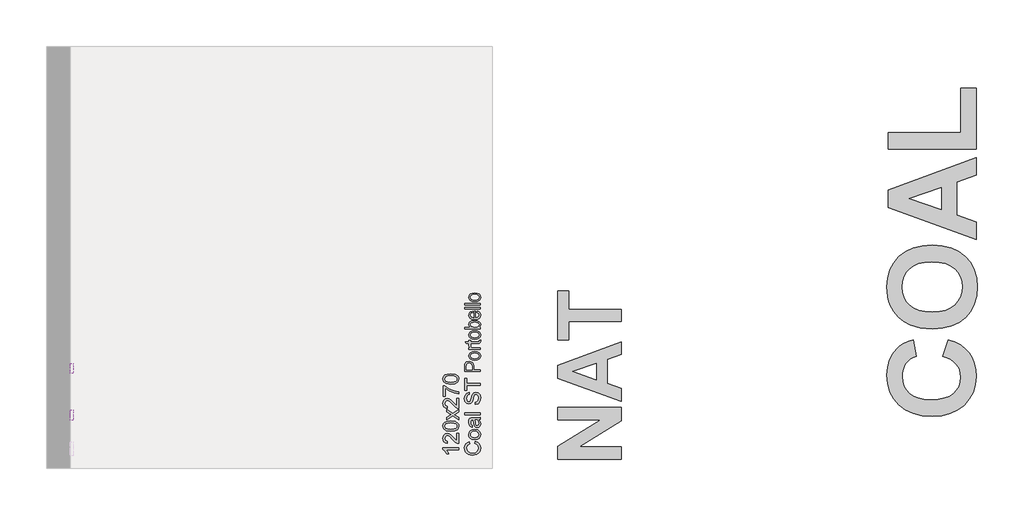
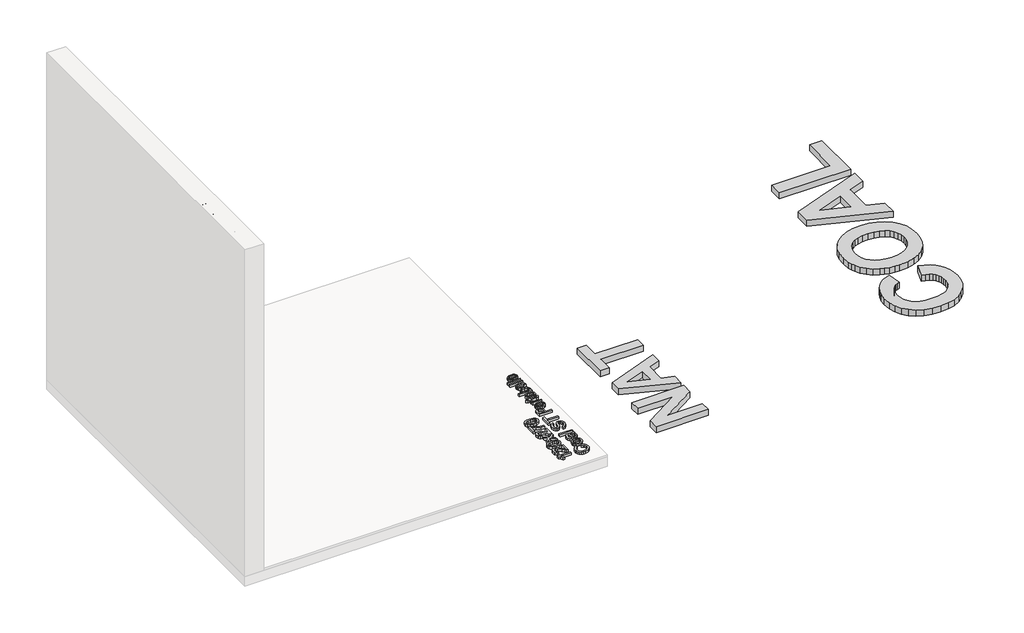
# One storey, part 18 of 19: 7 proxies.
"""IFC4 building model written with IfcOpenShell, lengths in millimetres."""

import ifcopenshell
import ifcopenshell.guid

model = None  # the IFC model being written
_history = None  # IfcOwnerHistory: only IFC2X3 demands one
_inside = {}  # id of a spatial element -> (the spatial element, [elements in it])
_under = {}  # id of a project, library or spatial element -> (it, [spatial elements below it])
_declared = {}  # id of a project -> (the project, [libraries it declares])
_typed = {}  # id of a type object -> (the type object, [elements of that type])
_made_of = {}  # id of a material, layer set ... -> (it, [elements and type objects made of it])


def new_model(schema):
    """Start an empty IFC model of exactly this schema.

    Asked for "IFC4X3", IfcOpenShell would pick the latest addendum, in which some entities
    have other attributes; the version numbers below select the first issue.
    IFC2X3 requires an IfcOwnerHistory on every rooted entity: one is made here for all.
    """
    global model, _history
    if schema == "IFC4X3":
        model = ifcopenshell.file(schema_version=(4, 3, 0, 0))
    else:
        model = ifcopenshell.file(schema=schema)
    _inside.clear()
    _under.clear()
    _declared.clear()
    _typed.clear()
    _made_of.clear()
    _history = None
    if model.schema == "IFC2X3":
        org = make("IfcOrganization", Name="unknown")
        user = make(
            "IfcPersonAndOrganization",
            ThePerson=make("IfcPerson", FamilyName="unknown"),
            TheOrganization=org,
        )
        app = make(
            "IfcApplication",
            ApplicationDeveloper=org,
            Version="unknown",
            ApplicationFullName="unknown",
            ApplicationIdentifier="unknown",
        )
        _history = make(
            "IfcOwnerHistory",
            OwningUser=user,
            OwningApplication=app,
            ChangeAction="ADDED",
            CreationDate=0,
        )
    return model


def make(cls, **values):
    """One entity of the class cls with the attributes given. An attribute that is None is left unset."""
    return model.create_entity(
        cls, **{name: value for name, value in values.items() if value is not None}
    )


def rooted(cls, **values):
    """An entity with a GlobalId (a new one), such as an element, a storey or a relation."""
    return make(cls, GlobalId=ifcopenshell.guid.new(), OwnerHistory=_history, **values)


def si_unit(unit_type, name, prefix=None):
    """IfcSIUnit, for example si_unit("LENGTHUNIT", "METRE", prefix="MILLI")."""
    return make("IfcSIUnit", UnitType=unit_type, Prefix=prefix, Name=name)


def assignment(units):
    """IfcUnitAssignment: the units of a project."""
    return None if units is None else make("IfcUnitAssignment", Units=units)


def point(xyz):
    """IfcCartesianPoint."""
    return None if xyz is None else make("IfcCartesianPoint", Coordinates=xyz)


def direction(xyz):
    """IfcDirection."""
    return None if xyz is None else make("IfcDirection", DirectionRatios=xyz)


def frame(location, z_axis=None, x_axis=None):
    """IfcAxis2Placement3D, a coordinate frame: its origin and axes. An axis left out is left unset."""
    return make(
        "IfcAxis2Placement3D",
        Location=point(location),
        Axis=direction(z_axis),
        RefDirection=direction(x_axis),
    )


def origin():
    """The frame at (0, 0, 0) with its axes left unset."""
    return frame((0.0, 0.0, 0.0))


def origin_with_axes():
    """The frame at (0, 0, 0) with the z axis (0, 0, 1) and the x axis (1, 0, 0) written out."""
    return frame((0.0, 0.0, 0.0), z_axis=(0.0, 0.0, 1.0), x_axis=(1.0, 0.0, 0.0))


def place(relative_to, where):
    """IfcLocalPlacement: puts the frame where relative to a parent placement (None: the world)."""
    return make(
        "IfcLocalPlacement", PlacementRelTo=relative_to, RelativePlacement=where
    )


def context(
    kind, dimensions, precision=None, world=None, true_north=None, identifier=None
):
    """IfcGeometricRepresentationContext, for example the 3D "Model" context."""
    return make(
        "IfcGeometricRepresentationContext",
        ContextIdentifier=identifier,
        ContextType=kind,
        CoordinateSpaceDimension=dimensions,
        Precision=precision,
        WorldCoordinateSystem=world,
        TrueNorth=true_north,
    )


def project(units=None, contexts=None):
    """IfcProject with its units and contexts."""
    return rooted(
        "IfcProject",
        Name="project",
        RepresentationContexts=contexts,
        UnitsInContext=assignment(units),
    )


def spatial(cls, under=None, at=None, **own):
    """A site, building, storey or space (cls), placed at a placement, below another one or the project."""
    s = rooted(cls, ObjectPlacement=at, **own)
    if under is not None:
        _under.setdefault(under.id(), (under, []))[1].append(s)
    return s


def polyline(points):
    """IfcPolyline through the points."""
    return make("IfcPolyline", Points=[point(p) for p in points])


def outline(outer, holes=None, kind="AREA"):
    """IfcArbitraryClosedProfileDef: a profile drawn as a closed curve; with holes, ...WithVoids."""
    if holes is None:
        return make("IfcArbitraryClosedProfileDef", ProfileType=kind, OuterCurve=outer)
    return make(
        "IfcArbitraryProfileDefWithVoids",
        ProfileType=kind,
        OuterCurve=outer,
        InnerCurves=holes,
    )


def extrude(swept, where, along, depth):
    """IfcExtrudedAreaSolid: the profile swept, set in the frame where, extruded along a direction by depth."""
    return make(
        "IfcExtrudedAreaSolid",
        SweptArea=swept,
        Position=where,
        ExtrudedDirection=direction(along),
        Depth=depth,
    )


def shape(context_of_items, identifier, shape_type, items):
    """IfcShapeRepresentation: the items that make up one representation, for example the "Body"."""
    return make(
        "IfcShapeRepresentation",
        ContextOfItems=context_of_items,
        RepresentationIdentifier=identifier,
        RepresentationType=shape_type,
        Items=items,
    )


def made_of(thing, what):
    """Note that an element or type object is made of a material, layer set ...; save() writes the relation."""
    if what is not None:
        _made_of.setdefault(what.id(), (what, []))[1].append(thing)
    return thing


def element(
    cls,
    number,
    at=None,
    inside=None,
    cuts=None,
    type_object=None,
    material=None,
    context=None,
    identifier="Body",
    shape_type=None,
    held_by="IfcProductDefinitionShape",
    body=None,
    shapes=None,
    **own,
):
    """One element of the class cls, such as IfcWall. Its Tag is "e" and its number.

    at: its placement. inside: the storey or other place that contains it. cuts: it is an
    opening in that element (IfcRelVoidsElement). A single representation is given by context,
    identifier, shape_type and body (its items); several are given by shapes. held_by: the class
    of the entity that holds the representations. save() writes the other relations.
    """
    e = rooted(cls, Tag="e%d" % number, ObjectPlacement=at, **own)
    if body is not None:
        shapes = [shape(context, identifier, shape_type, body)]
    if shapes is not None:
        e.Representation = make(held_by, Representations=shapes)
    if inside is not None:
        _inside.setdefault(inside.id(), (inside, []))[1].append(e)
    if cuts is not None:
        rooted(
            "IfcRelVoidsElement", RelatingBuildingElement=cuts, RelatedOpeningElement=e
        )
    if type_object is not None:
        _typed.setdefault(type_object.id(), (type_object, []))[1].append(e)
    return made_of(e, material)


def aggregate(whole, parts):
    """IfcRelAggregates: a whole, such as a stair, and the parts it consists of."""
    return rooted("IfcRelAggregates", RelatingObject=whole, RelatedObjects=parts)


def save(model, path):
    """Write the relations noted so far, then the file.

    IfcRelAggregates (storeys below a building ...), IfcRelContainedInSpatialStructure (elements
    in a storey), IfcRelDefinesByType, IfcRelAssociatesMaterial and IfcRelDeclares: one each for
    every whole, place, type object, material and project.
    """
    for whole, parts in _under.values():
        aggregate(whole, parts)
    for where, things in _inside.values():
        rooted(
            "IfcRelContainedInSpatialStructure",
            RelatedElements=things,
            RelatingStructure=where,
        )
    for kind, things in _typed.values():
        rooted("IfcRelDefinesByType", RelatedObjects=things, RelatingType=kind)
    for what, things in _made_of.values():
        rooted("IfcRelAssociatesMaterial", RelatedObjects=things, RelatingMaterial=what)
    for by, libraries in _declared.values():
        rooted("IfcRelDeclares", RelatingContext=by, RelatedDefinitions=libraries)
    model.write(path)


model = new_model("IFC4")

# Units and contexts
model_context = context("Model", 3, world=origin())
ifc_project = project(units=[si_unit("LENGTHUNIT", "METRE", prefix="MILLI")], contexts=[model_context])

# Site, building, storey
site = spatial("IfcSite", under=ifc_project)
building = spatial("IfcBuilding", under=site)
storey = spatial("IfcBuildingStorey", under=building, Name="PORTOBELLO - SHOWROOM", Elevation=0.0)

# Proxies
placement = place(None, origin())
element("IfcBuildingElementProxy", 1, Name="10mm Arial", ObjectType="10mm Arial", at=placement, inside=storey, context=model_context, shape_type="SweptSolid", body=[
    extrude(outline(polyline([(11494.5159023, 26160.9791147), (11497.7532639, 26173.5361535), (11512.3857702, 26167.7420121), (11523.0758079, 26158.6491954), (11529.6149103, 26146.7052933), (11531.7946112, 26132.3578955), (11530.1452735, 26117.7928342), (11525.1972607, 26106.2260111), (11517.1222509, 26097.360055), (11506.0919224, 26090.8975947), (11479.2365368, 26085.6368821), (11464.588702, 26087.1237385), (11451.9396927, 26091.5843077), (11441.6911135, 26098.7855978), (11434.2445688, 26108.4946168), (11429.7104232, 26120.0093232), (11428.1990413, 26132.6276757), (11430.1549473, 26146.3956593), (11436.0226651, 26157.7785414), (11445.4404442, 26166.4207026), (11458.0465339, 26171.9665237), (11461.0386408, 26159.4094849), (11445.5998597, 26149.108789), (11440.7560801, 26132.1371663), (11446.1271572, 26112.4922678), (11460.5481314, 26101.3944943), (11479.2120113, 26098.1939209), (11500.8434726, 26101.9831055), (11514.6635729, 26113.7798548), (11519.2375724, 26131.1070967), (11517.6802053, 26141.5886679), (11513.0081039, 26150.3227996), (11505.2703193, 26156.9170844), (11494.5159023, 26160.9791147)])), origin_with_axes(), (0.0, 0.0, 1.0), 20.0),
    extrude(outline(polyline([(11493.3386799, 26186.0931923), (11475.5515855, 26188.8093877), (11463.049729, 26196.9579739), (11456.9244938, 26207.0256778), (11454.8827487, 26219.0799445), (11457.3690179, 26232.2715797), (11464.8278253, 26242.8083332), (11476.6705599, 26249.7153177), (11492.3086103, 26252.0176458), (11514.6513102, 26247.9464184), (11527.2941881, 26236.0883554), (11531.7946112, 26219.0799445), (11529.3175391, 26205.7288938), (11521.8863228, 26195.204403), (11509.7952678, 26188.370995), (11493.3386799, 26186.0931923)]), holes=[polyline([(11493.3141545, 26198.6502311), (11504.6786424, 26200.1033649), (11512.775112, 26204.4627666), (11517.6219573, 26211.0233288), (11519.2375724, 26219.0799445), (11517.6127602, 26227.099772), (11512.7383238, 26233.6480715), (11504.5345553, 26238.0074732), (11492.921747, 26239.4606071), (11481.8883528, 26237.9982761), (11473.9022479, 26233.6112833), (11469.0554026, 26227.0537868), (11467.4397875, 26219.0799445), (11469.0492712, 26211.0233288), (11473.8777224, 26204.4627666), (11481.9557979, 26200.1033649), (11493.3141545, 26198.6502311)])]), origin_with_axes(), (0.0, 0.0, 1.0), 20.0),
    extrude(outline(polyline([(11520.8072022, 26313.2332098), (11529.3175391, 26301.0563158), (11531.7946112, 26287.6040975), (11530.3046891, 26277.1102636), (11525.8349228, 26269.3694133), (11519.0475, 26264.5961444), (11510.6046082, 26263.0050547), (11500.6717944, 26265.4085504), (11493.4613073, 26271.723858), (11489.3410289, 26280.5162377), (11487.452568, 26291.3810193), (11483.1360859, 26313.1596334), (11480.3401828, 26313.2332098), (11471.0695565, 26309.7751191), (11467.4397875, 26295.8937051), (11469.8555459, 26283.1895135), (11478.4271964, 26277.1317234), (11476.8575665, 26264.5746846), (11464.5948334, 26270.0070754), (11457.4088717, 26280.9454334), (11454.8827487, 26297.5123859), (11457.1145661, 26312.7304378), (11462.7186352, 26321.3266137), (11471.2412348, 26325.1771119), (11482.2286437, 26325.7902486), (11497.8513657, 26325.7902486), (11519.6667681, 26326.4279107), (11530.2249813, 26328.9295083), (11530.2249813, 26316.3724695), (11520.8072022, 26313.2332098)]), holes=[polyline([(11495.6931247, 26313.2332098), (11499.5436229, 26292.9751746), (11501.5792366, 26282.1717067), (11504.8901746, 26277.2788762), (11509.7216914, 26275.5620935), (11516.5152456, 26279.3022271), (11519.2375724, 26290.2773733), (11516.2332028, 26302.9815649), (11508.961402, 26311.1730706), (11499.2493173, 26313.1596334), (11495.6931247, 26313.2332098)])]), origin_with_axes(), (0.0, 0.0, 1.0), 20.0),
    extrude(outline(polyline([(11530.2249813, 26343.0561769), (11429.7686712, 26343.0561769), (11429.7686712, 26355.6132157), (11530.2249813, 26355.6132157), (11530.2249813, 26343.0561769)])), origin_with_axes(), (0.0, 0.0, 1.0), 20.0),
    extrude(outline(polyline([(11495.6931247, 26410.5502603), (11495.6931247, 26423.107299), (11508.2624262, 26427.154001), (11516.2086773, 26437.0377639), (11519.2375724, 26452.0964003), (11516.9444413, 26465.2175248), (11510.6413964, 26473.6910734), (11502.2168987, 26476.4747138), (11494.3810122, 26474.3900492), (11488.6788413, 26465.8551869), (11483.8841127, 26447.5714517), (11477.6914324, 26427.889765), (11468.3472297, 26417.2089244), (11455.8637674, 26413.68952), (11441.6512596, 26418.0427902), (11431.6203439, 26430.7592445), (11428.1990413, 26449.3740735), (11431.7797594, 26469.2397012), (11442.3011845, 26482.4834531), (11458.0220084, 26487.4621227), (11458.0220084, 26474.905084), (11450.5294784, 26472.5996901), (11445.1216131, 26467.7926987), (11440.7560801, 26449.8645828), (11445.0725622, 26431.887416), (11455.4958854, 26426.2465587), (11464.2024259, 26430.2442097), (11471.2167093, 26450.7474996), (11477.5197541, 26472.9675721), (11487.6978227, 26485.1199407), (11501.8980677, 26489.0317526), (11516.9199158, 26484.5313295), (11527.8827993, 26471.5818833), (11531.7946112, 26452.5869096), (11527.5762309, 26430.1583706), (11514.8720394, 26415.9703883), (11495.6931247, 26410.5502603)])), origin_with_axes(), (0.0, 0.0, 1.0), 20.0),
    extrude(outline(polyline([(11530.2249813, 26532.9813883), (11442.3257099, 26532.9813883), (11442.3257099, 26500.0191615), (11429.7686712, 26500.0191615), (11429.7686712, 26578.5006538), (11442.3257099, 26578.5006538), (11442.3257099, 26545.538427), (11530.2249813, 26545.538427), (11530.2249813, 26532.9813883)])), origin_with_axes(), (0.0, 0.0, 1.0), 20.0),
])
element("IfcBuildingElementProxy", 2, Name="10mm Arial", ObjectType="10mm Arial", at=placement, inside=storey, context=model_context, shape_type="SweptSolid", body=[
    extrude(outline(polyline([(26129.3687754, 2381.1895903), (26116.8117367, 2381.1895903), (26116.8117367, 2459.4748789), (26104.9168855, 2451.0013303), (26091.6976591, 2444.6614972), (26091.6976591, 2456.531823), (26110.1040216, 2468.2795213), (26121.2753715, 2481.6459005), (26129.3687754, 2481.6459005), (26129.3687754, 2381.1895903)])), frame((8905.7966975, 0.0, 0.0), z_axis=(1.0, 0.0, 0.0), x_axis=(0.0, 1.0, 0.0)), (0.0, 0.0, 1.0), 20.0),
    extrude(outline(polyline([(26223.5465662, 2393.7466291), (26223.5465662, 2381.1895903), (26157.6221127, 2381.1895903), (26158.9710133, 2389.84708), (26166.6106961, 2403.1766709), (26182.3437827, 2417.7325352), (26204.0120323, 2438.652758), (26209.4198976, 2452.8775285), (26204.3063378, 2464.3922349), (26190.9522214, 2469.0888617), (26177.0340193, 2464.5025995), (26171.7487813, 2451.8229334), (26159.1917425, 2453.3925633), (26162.235966, 2465.5388005), (26168.817988, 2474.4108879), (26178.5944521, 2479.8371473), (26191.2220016, 2481.6459005), (26203.9415215, 2479.6348123), (26213.6995915, 2473.6015475), (26219.9076001, 2464.5884386), (26221.9769364, 2453.6378179), (26219.7451189, 2441.730704), (26212.3261653, 2429.4189199), (26194.3367358, 2412.2143053), (26179.8912361, 2400.1355131), (26174.2258534, 2393.7466291), (26223.5465662, 2393.7466291)])), frame((8905.7966975, 0.0, 0.0), z_axis=(1.0, 0.0, 0.0), x_axis=(0.0, 1.0, 0.0)), (0.0, 0.0, 1.0), 20.0),
    extrude(outline(polyline([(26236.103605, 2430.608405), (26239.7946876, 2459.5116671), (26250.7575711, 2476.1767215), (26269.0658317, 2481.6459005), (26283.7320606, 2478.4085389), (26293.8610782, 2469.076599), (26299.7471901, 2454.2141664), (26302.0280585, 2430.608405), (26298.373764, 2401.8277703), (26287.4476688, 2385.1259277), (26279.2163091, 2380.9964523), (26269.0658317, 2379.6199605), (26256.0182836, 2382.0111935), (26246.1099952, 2389.1848924), (26238.6052025, 2406.1749092), (26236.103605, 2430.608405)]), holes=[polyline([(26248.6606437, 2430.6329305), (26250.1321717, 2410.880733), (26254.5467557, 2399.4488), (26261.1195806, 2393.9949495), (26269.0658317, 2392.1769993), (26277.0120828, 2394.0010808), (26283.5849078, 2399.4733255), (26287.9994918, 2410.9113899), (26289.4710197, 2430.6329305), (26288.0485427, 2449.9406039), (26283.7811115, 2461.4614417), (26277.2205493, 2467.1820067), (26268.9186789, 2469.0888617), (26261.058267, 2467.4088673), (26254.7429594, 2462.3688839), (26250.1812226, 2450.1306762), (26248.6606437, 2430.6329305)])]), frame((8905.7966975, 0.0, 0.0), z_axis=(1.0, 0.0, 0.0), x_axis=(0.0, 1.0, 0.0)), (0.0, 0.0, 1.0), 20.0),
    extrude(outline(polyline([(26308.3065779, 2381.1895903), (26335.1374381, 2418.2966209), (26309.8762077, 2454.9621931), (26324.9348441, 2454.9621931), (26337.1240008, 2437.2793319), (26342.8384345, 2428.9651988), (26347.7925787, 2435.7832784), (26361.6739927, 2454.9621931), (26376.7816799, 2454.9621931), (26350.2451253, 2418.2720955), (26375.8006613, 2381.1895903), (26360.7174995, 2381.1895903), (26345.3155066, 2403.5077647), (26342.5196034, 2407.6035176), (26323.4142652, 2381.1895903), (26308.3065779, 2381.1895903)])), frame((8905.7966975, 0.0, 0.0), z_axis=(1.0, 0.0, 0.0), x_axis=(0.0, 1.0, 0.0)), (0.0, 0.0, 1.0), 20.0),
    extrude(outline(polyline([(26448.0036342, 2393.7466291), (26448.0036342, 2381.1895903), (26382.0791807, 2381.1895903), (26383.4280813, 2389.84708), (26391.0677641, 2403.1766709), (26406.8008507, 2417.7325352), (26428.4691002, 2438.652758), (26433.8769656, 2452.8775285), (26428.7634058, 2464.3922349), (26415.4092894, 2469.0888617), (26401.4910873, 2464.5025995), (26396.2058493, 2451.8229334), (26383.6488105, 2453.3925633), (26386.693034, 2465.5388005), (26393.275056, 2474.4108879), (26403.0515201, 2479.8371473), (26415.6790695, 2481.6459005), (26428.3985895, 2479.6348123), (26438.1566594, 2473.6015475), (26444.3646681, 2464.5884386), (26446.4340043, 2453.6378179), (26444.2021869, 2441.730704), (26436.7832333, 2429.4189199), (26418.7938038, 2412.2143053), (26404.3483041, 2400.1355131), (26398.6829214, 2393.7466291), (26448.0036342, 2393.7466291)])), frame((8905.7966975, 0.0, 0.0), z_axis=(1.0, 0.0, 0.0), x_axis=(0.0, 1.0, 0.0)), (0.0, 0.0, 1.0), 20.0),
    extrude(outline(polyline([(26460.560673, 2467.5192319), (26460.560673, 2480.0762706), (26526.4851265, 2480.0762706), (26526.4851265, 2469.9227276), (26507.7844584, 2442.9079264), (26493.4738488, 2408.4864344), (26488.8140102, 2381.1895903), (26476.2569714, 2381.1895903), (26481.2479038, 2409.516504), (26494.9453768, 2441.5345003), (26513.9280877, 2467.5192319), (26460.560673, 2467.5192319)])), frame((8905.7966975, 0.0, 0.0), z_axis=(1.0, 0.0, 0.0), x_axis=(0.0, 1.0, 0.0)), (0.0, 0.0, 1.0), 20.0),
    extrude(outline(polyline([(26537.4725354, 2430.608405), (26541.1636181, 2459.5116671), (26552.1265016, 2476.1767215), (26570.4347622, 2481.6459005), (26585.1009911, 2478.4085389), (26595.2300087, 2469.076599), (26601.1161206, 2454.2141664), (26603.3969889, 2430.608405), (26599.7426945, 2401.8277703), (26588.8165992, 2385.1259277), (26580.5852396, 2380.9964523), (26570.4347622, 2379.6199605), (26557.3872141, 2382.0111935), (26547.4789257, 2389.1848924), (26539.974133, 2406.1749092), (26537.4725354, 2430.608405)]), holes=[polyline([(26550.0295742, 2430.6329305), (26551.5011022, 2410.880733), (26555.9156861, 2399.4488), (26562.4885111, 2393.9949495), (26570.4347622, 2392.1769993), (26578.3810133, 2394.0010808), (26584.9538383, 2399.4733255), (26589.3684222, 2410.9113899), (26590.8399502, 2430.6329305), (26589.4174731, 2449.9406039), (26585.150042, 2461.4614417), (26578.5894797, 2467.1820067), (26570.2876094, 2469.0888617), (26562.4271974, 2467.4088673), (26556.1118898, 2462.3688839), (26551.5501531, 2450.1306762), (26550.0295742, 2430.6329305)])]), frame((8905.7966975, 0.0, 0.0), z_axis=(1.0, 0.0, 0.0), x_axis=(0.0, 1.0, 0.0)), (0.0, 0.0, 1.0), 20.0),
])
element("IfcBuildingElementProxy", 3, Name="10mm Arial", ObjectType="10mm Arial", at=placement, inside=storey, context=model_context, shape_type="SweptSolid", body=[
    extrude(outline(polyline([(11390.2249813, 26132.7257775), (11390.2249813, 26120.1687387), (11311.9396927, 26120.1687387), (11320.4132414, 26108.2738876), (11326.7530744, 26095.0546612), (11314.8827487, 26095.0546612), (11303.1350503, 26113.4610237), (11289.7686712, 26124.6323736), (11289.7686712, 26132.7257775), (11390.2249813, 26132.7257775)])), origin_with_axes(), (0.0, 0.0, 1.0), 20.0),
    extrude(outline(polyline([(11377.6679425, 26226.9035683), (11390.2249813, 26226.9035683), (11390.2249813, 26160.9791147), (11381.5674917, 26162.3280154), (11368.2379007, 26169.9676982), (11353.6820365, 26185.7007848), (11332.7618137, 26207.3690343), (11318.5370432, 26212.7768997), (11307.0223367, 26207.6633399), (11302.3257099, 26194.3092235), (11306.9119721, 26180.3910214), (11319.5916382, 26175.1057834), (11318.0220084, 26162.5487446), (11305.8757712, 26165.5929681), (11297.0036837, 26172.1749901), (11291.5774243, 26181.9514542), (11289.7686712, 26194.5790036), (11291.7797594, 26207.2985236), (11297.8130241, 26217.0565935), (11306.826133, 26223.2646022), (11317.7767537, 26225.3339384), (11329.6838676, 26223.102121), (11341.9956517, 26215.6831674), (11359.2002664, 26197.6937379), (11371.2790586, 26183.2482382), (11377.6679425, 26177.5828555), (11377.6679425, 26226.9035683)])), origin_with_axes(), (0.0, 0.0, 1.0), 20.0),
    extrude(outline(polyline([(11340.8061666, 26239.4606071), (11311.9029045, 26243.1516897), (11295.2378502, 26254.1145732), (11289.7686712, 26272.4228338), (11293.0060327, 26287.0890627), (11302.3379727, 26297.2180803), (11317.2004053, 26303.1041922), (11340.8061666, 26305.3850606), (11369.5868014, 26301.7307661), (11386.288644, 26290.8046708), (11390.4181194, 26282.5733112), (11391.7946112, 26272.4228338), (11389.4033782, 26259.3752857), (11382.2296793, 26249.4669973), (11365.2396625, 26241.9622046), (11340.8061666, 26239.4606071)]), holes=[polyline([(11340.7816412, 26252.0176458), (11360.5338386, 26253.4891738), (11371.9657716, 26257.9037577), (11377.4196222, 26264.4765827), (11379.2375724, 26272.4228338), (11377.4134908, 26280.3690849), (11371.9412462, 26286.9419099), (11360.5031818, 26291.3564938), (11340.7816412, 26292.8280218), (11321.4739678, 26291.4055448), (11309.95313, 26287.1381136), (11304.2325649, 26280.5775514), (11302.3257099, 26272.275681), (11304.0057044, 26264.4152691), (11309.0456877, 26258.0999615), (11321.2838954, 26253.5382247), (11340.7816412, 26252.0176458)])]), origin_with_axes(), (0.0, 0.0, 1.0), 20.0),
    extrude(outline(polyline([(11390.2249813, 26311.66358), (11353.1179507, 26338.4944402), (11316.4523785, 26313.2332098), (11316.4523785, 26328.2918462), (11334.1352398, 26340.4810029), (11342.4493729, 26346.1954366), (11335.6312932, 26351.1495808), (11316.4523785, 26365.0309947), (11316.4523785, 26380.138682), (11353.1424762, 26353.6021274), (11390.2249813, 26379.1576634), (11390.2249813, 26364.0745016), (11367.9068069, 26348.6725087), (11363.8110541, 26345.8766055), (11390.2249813, 26326.7712672), (11390.2249813, 26311.66358)])), origin_with_axes(), (0.0, 0.0, 1.0), 20.0),
    extrude(outline(polyline([(11377.6679425, 26451.3606363), (11390.2249813, 26451.3606363), (11390.2249813, 26385.4361827), (11381.5674917, 26386.7850834), (11368.2379007, 26394.4247662), (11353.6820365, 26410.1578528), (11332.7618137, 26431.8261023), (11318.5370432, 26437.2339677), (11307.0223367, 26432.1204079), (11302.3257099, 26418.7662915), (11306.9119721, 26404.8480893), (11319.5916382, 26399.5628514), (11318.0220084, 26387.0058126), (11305.8757712, 26390.0500361), (11297.0036837, 26396.6320581), (11291.5774243, 26406.4085221), (11289.7686712, 26419.0360716), (11291.7797594, 26431.7555916), (11297.8130241, 26441.5136615), (11306.826133, 26447.7216702), (11317.7767537, 26449.7910064), (11329.6838676, 26447.559189), (11341.9956517, 26440.1402354), (11359.2002664, 26422.1508059), (11371.2790586, 26407.7053062), (11377.6679425, 26402.0399235), (11377.6679425, 26451.3606363)])), origin_with_axes(), (0.0, 0.0, 1.0), 20.0),
    extrude(outline(polyline([(11303.8953398, 26463.917675), (11291.338301, 26463.917675), (11291.338301, 26529.8421286), (11301.4918441, 26529.8421286), (11328.5066453, 26511.1414605), (11362.9281373, 26496.8308509), (11390.2249813, 26492.1710123), (11390.2249813, 26479.6139735), (11361.8980677, 26484.6049059), (11329.8800714, 26498.3023789), (11303.8953398, 26517.2850898), (11303.8953398, 26463.917675)])), origin_with_axes(), (0.0, 0.0, 1.0), 20.0),
    extrude(outline(polyline([(11340.8061666, 26540.8295375), (11311.9029045, 26544.5206202), (11295.2378502, 26555.4835036), (11289.7686712, 26573.7917643), (11293.0060327, 26588.4579931), (11302.3379727, 26598.5870107), (11317.2004053, 26604.4731227), (11340.8061666, 26606.753991), (11369.5868014, 26603.0996965), (11386.288644, 26592.1736013), (11390.4181194, 26583.9422417), (11391.7946112, 26573.7917643), (11389.4033782, 26560.7442162), (11382.2296793, 26550.8359278), (11365.2396625, 26543.3311351), (11340.8061666, 26540.8295375)]), holes=[polyline([(11340.7816412, 26553.3865763), (11360.5338386, 26554.8581042), (11371.9657716, 26559.2726882), (11377.4196222, 26565.8455132), (11379.2375724, 26573.7917643), (11377.4134908, 26581.7380154), (11371.9412462, 26588.3108403), (11360.5031818, 26592.7254243), (11340.7816412, 26594.1969523), (11321.4739678, 26592.7744752), (11309.95313, 26588.5070441), (11304.2325649, 26581.9464818), (11302.3257099, 26573.6446115), (11304.0057044, 26565.7841995), (11309.0456877, 26559.4688919), (11321.2838954, 26554.9071552), (11340.7816412, 26553.3865763)])]), origin_with_axes(), (0.0, 0.0, 1.0), 20.0),
])
element("IfcBuildingElementProxy", 4, Name="10mm Arial Narrow", ObjectType="10mm Arial Narrow", at=placement, inside=storey, context=model_context, shape_type="SweptSolid", body=[
    extrude(outline(polyline([(11530.2249813, 26622.6596713), (11429.5063776, 26622.6596713), (11429.5063776, 26653.956556), (11431.3846983, 26670.2522575), (11440.8651415, 26681.7252436), (11457.8842503, 26686.014922), (11469.9600758, 26684.2286136), (11479.5864696, 26678.8696884), (11485.887728, 26669.1258996), (11487.9881475, 26654.1850004), (11487.9881475, 26632.406633), (11530.2249813, 26632.406633), (11530.2249813, 26622.6596713)]), holes=[polyline([(11476.6166922, 26632.406633), (11476.6166922, 26655.3779879), (11472.085878, 26671.2421833), (11458.4172873, 26676.2679604), (11448.2515108, 26673.7931459), (11442.451561, 26667.8155171), (11440.8778328, 26655.1495435), (11440.8778328, 26632.406633), (11476.6166922, 26632.406633)])]), origin_with_axes(), (0.0, 0.0, 1.0), 20.0),
    extrude(outline(polyline([(11493.6738751, 26694.1373901), (11477.0830996, 26696.091859), (11465.1310147, 26701.9552656), (11457.9064602, 26710.8138323), (11455.4982753, 26721.7537814), (11457.9064602, 26732.566817), (11465.1310147, 26741.4507665), (11476.8927292, 26747.3903212), (11492.9123937, 26749.3701728), (11510.0742803, 26747.4252224), (11522.2167355, 26741.5903714), (11529.4412901, 26732.7413232), (11531.8494749, 26721.7537814), (11529.4349444, 26710.8931533), (11522.1913528, 26702.0187224), (11510.2329223, 26696.1077232), (11493.6738751, 26694.1373901)]), holes=[polyline([(11493.6484924, 26703.8843517), (11506.2002438, 26705.1883886), (11515.0715019, 26709.1004992), (11520.3447604, 26714.9416959), (11522.1025133, 26722.0329913), (11520.3288962, 26728.7530645), (11515.0080451, 26734.4451378), (11506.1209228, 26738.3286928), (11493.6484924, 26739.6232111), (11481.1348151, 26738.3191743), (11472.2762484, 26734.4070637), (11467.0029898, 26728.5658669), (11465.245237, 26721.4745716), (11467.0125083, 26714.7069058), (11472.3143224, 26709.0243511), (11481.1824077, 26705.1693516), (11493.6484924, 26703.8843517)])]), origin_with_axes(), (0.0, 0.0, 1.0), 20.0),
    extrude(outline(polyline([(11522.1025133, 26820.8478916), (11531.8494749, 26822.4723852), (11531.8494749, 26815.1113985), (11529.7300184, 26806.8366342), (11523.9300686, 26802.5215731), (11509.2842434, 26801.3539683), (11466.8697306, 26801.3539683), (11466.8697306, 26793.2315002), (11463.6207433, 26793.2315002), (11468.4942242, 26791.6070066), (11466.8697306, 26784.0429583), (11469.1922488, 26777.9637986), (11475.6775319, 26774.0929349), (11491.0848384, 26772.1130833), (11530.2249813, 26772.1130833), (11530.2249813, 26762.3661217), (11457.1227689, 26762.3661217), (11457.1227689, 26772.1130833), (11466.8189651, 26772.1130833), (11457.731954, 26778.3572306), (11455.4982753, 26784.7536742), (11457.1227689, 26793.2315002), (11457.1227689, 26801.3539683), (11440.8778328, 26801.3539683), (11432.7553648, 26811.1009299), (11457.1227689, 26811.1009299), (11457.1227689, 26820.8478916), (11466.8697306, 26820.8478916), (11466.8697306, 26811.1009299), (11511.5179221, 26811.1009299), (11519.5134766, 26811.9639422), (11522.1025133, 26816.5835959), (11522.1025133, 26820.8478916)])), origin_with_axes(), (0.0, 0.0, 1.0), 20.0),
    extrude(outline(polyline([(11493.6738751, 26827.345866), (11477.0830996, 26829.3003349), (11465.1310147, 26835.1637415), (11457.9064602, 26844.0223082), (11455.4982753, 26854.9622574), (11457.9064602, 26865.775293), (11465.1310147, 26874.6592424), (11476.8927292, 26880.5987971), (11492.9123937, 26882.5786487), (11510.0742803, 26880.6336984), (11522.2167355, 26874.7988473), (11529.4412901, 26865.9497991), (11531.8494749, 26854.9622574), (11529.4349444, 26844.1016292), (11522.1913528, 26835.2271983), (11510.2329223, 26829.3161991), (11493.6738751, 26827.345866)]), holes=[polyline([(11493.6484924, 26837.0928277), (11506.2002438, 26838.3968645), (11515.0715019, 26842.3089751), (11520.3447604, 26848.1501719), (11522.1025133, 26855.2414672), (11520.3288962, 26861.9615404), (11515.0080451, 26867.6536137), (11506.1209228, 26871.5371687), (11493.6484924, 26872.8316871), (11481.1348151, 26871.5276502), (11472.2762484, 26867.6155396), (11467.0029898, 26861.7743429), (11465.245237, 26854.6830475), (11467.0125083, 26847.9153818), (11472.3143224, 26842.232827), (11481.1824077, 26838.3778275), (11493.6484924, 26837.0928277)])]), origin_with_axes(), (0.0, 0.0, 1.0), 20.0),
    extrude(outline(polyline([(11530.2249813, 26905.3215593), (11530.2249813, 26895.5745976), (11429.5063776, 26895.5745976), (11429.5063776, 26905.3215593), (11464.9152617, 26905.3215593), (11457.8334849, 26912.72062), (11455.4982753, 26921.9218533), (11459.6991142, 26934.80358), (11472.4285446, 26944.0809615), (11493.1154554, 26947.5583931), (11509.5697989, 26945.6261341), (11521.772538, 26939.8293571), (11529.3302407, 26931.4562348), (11531.8494749, 26921.7949398), (11529.2350555, 26912.4541015), (11521.4679455, 26905.3215593), (11530.2249813, 26905.3215593)]), holes=[polyline([(11493.1154554, 26905.3215593), (11510.3630087, 26907.4029417), (11519.0946618, 26913.291731), (11522.1025133, 26921.7441743), (11520.313032, 26927.6869019), (11514.9445883, 26932.9252592), (11493.5215788, 26937.8114314), (11472.085878, 26933.1029382), (11466.9553972, 26927.8582352), (11465.245237, 26921.5411126), (11467.0347182, 26915.5634838), (11472.4031619, 26910.2711882), (11493.1154554, 26905.3215593)])]), origin_with_axes(), (0.0, 0.0, 1.0), 20.0),
    extrude(outline(polyline([(11507.4820708, 26999.5421886), (11509.1065644, 27009.2891502), (11518.993131, 27005.5896199), (11526.1129819, 26999.770633), (11530.4153517, 26992.0669797), (11531.8494749, 26982.7134501), (11529.4349444, 26971.1198961), (11522.1913528, 26961.9757739), (11510.3852185, 26956.0362191), (11494.2830602, 26954.0563675), (11477.6161365, 26956.0457376), (11465.4356073, 26962.0138479), (11457.9826083, 26971.0278838), (11455.4982753, 26982.1550304), (11457.8969416, 26992.8379796), (11465.0929407, 27001.5854969), (11476.8324453, 27007.420348), (11492.8616283, 27009.3652984), (11496.1106155, 27009.2891502), (11496.1106155, 26963.8033292), (11515.5537734, 26969.8063407), (11520.4653283, 26975.736377), (11522.1025133, 26982.8403637), (11518.4474026, 26993.0188314), (11507.4820708, 26999.5421886)]), holes=[polyline([(11486.3636539, 26964.4632797), (11486.3636539, 26999.5421886), (11472.0985694, 26995.2778928), (11466.9585701, 26989.4525603), (11465.245237, 26982.2311785), (11470.9563473, 26970.0220938), (11486.3636539, 26964.4632797)])]), origin_with_axes(), (0.0, 0.0, 1.0), 20.0),
    extrude(outline(polyline([(11530.2249813, 27022.2850991), (11429.5063776, 27022.2850991), (11429.5063776, 27032.0320607), (11530.2249813, 27032.0320607), (11530.2249813, 27022.2850991)])), origin_with_axes(), (0.0, 0.0, 1.0), 20.0),
    extrude(outline(polyline([(11530.2249813, 27048.2769968), (11429.5063776, 27048.2769968), (11429.5063776, 27058.0239585), (11530.2249813, 27058.0239585), (11530.2249813, 27048.2769968)])), origin_with_axes(), (0.0, 0.0, 1.0), 20.0),
    extrude(outline(polyline([(11493.6738751, 27069.3954138), (11477.0830996, 27071.3498826), (11465.1310147, 27077.2132892), (11457.9064602, 27086.071856), (11455.4982753, 27097.0118051), (11457.9064602, 27107.8248407), (11465.1310147, 27116.7087901), (11476.8927292, 27122.6483449), (11492.9123937, 27124.6281965), (11510.0742803, 27122.6832461), (11522.2167355, 27116.848395), (11529.4412901, 27107.9993468), (11531.8494749, 27097.0118051), (11529.4349444, 27086.1511769), (11522.1913528, 27077.276746), (11510.2329223, 27071.3657468), (11493.6738751, 27069.3954138)]), holes=[polyline([(11493.6484924, 27079.1423754), (11506.2002438, 27080.4464123), (11515.0715019, 27084.3585229), (11520.3447604, 27090.1997196), (11522.1025133, 27097.2910149), (11520.3288962, 27104.0110881), (11515.0080451, 27109.7031614), (11506.1209228, 27113.5867165), (11493.6484924, 27114.8812348), (11481.1348151, 27113.5771979), (11472.2762484, 27109.6650874), (11467.0029898, 27103.8238906), (11465.245237, 27096.7325953), (11467.0125083, 27089.9649295), (11472.3143224, 27084.2823747), (11481.1824077, 27080.4273752), (11493.6484924, 27079.1423754)])]), origin_with_axes(), (0.0, 0.0, 1.0), 20.0),
])
element("IfcBuildingElementProxy", 5, Name="10mm Arial Narrow", ObjectType="10mm Arial Narrow", at=placement, inside=storey, context=model_context, shape_type="SweptSolid", body=[
    extrude(outline(polyline([(26610.7745931, 2516.1895903), (26610.7745931, 2616.9081941), (26642.0714778, 2616.9081941), (26658.3671793, 2615.0298734), (26669.8401655, 2605.5494302), (26674.1298439, 2588.5303214), (26672.3435355, 2576.4544958), (26666.9846103, 2566.8281021), (26657.2408215, 2560.5268436), (26642.2999222, 2558.4264242), (26620.5215548, 2558.4264242), (26620.5215548, 2516.1895903), (26610.7745931, 2516.1895903)]), holes=[polyline([(26620.5215548, 2569.7978794), (26643.4929097, 2569.7978794), (26659.3571051, 2574.3286936), (26664.3828822, 2587.9972844), (26661.9080678, 2598.1630608), (26655.9304389, 2603.9630106), (26643.2644653, 2605.5367388), (26620.5215548, 2605.5367388), (26620.5215548, 2569.7978794)])]), frame((8905.7966975, 0.0, 0.0), z_axis=(1.0, 0.0, 0.0), x_axis=(0.0, 1.0, 0.0)), (0.0, 0.0, 1.0), 20.0),
    extrude(outline(polyline([(26682.2523119, 2552.7406965), (26684.2067808, 2569.3314721), (26690.0701874, 2581.2835569), (26698.9287541, 2588.5081115), (26709.8687033, 2590.9162964), (26720.6817389, 2588.5081115), (26729.5656883, 2581.2835569), (26735.5052431, 2569.5218424), (26737.4850946, 2553.5021779), (26735.5401443, 2536.3402913), (26729.7052932, 2524.1978362), (26720.856245, 2516.9732816), (26709.8687033, 2514.5650967), (26699.0080751, 2516.9796273), (26690.1336442, 2524.2232189), (26684.222645, 2536.1816494), (26682.2523119, 2552.7406965)]), holes=[polyline([(26691.9992736, 2552.7660793), (26693.3033105, 2540.2143279), (26697.215421, 2531.3430698), (26703.0566178, 2526.0698112), (26710.1479131, 2524.3120584), (26716.8679863, 2526.0856754), (26722.5600596, 2531.4065266), (26726.4436146, 2540.2936488), (26727.738133, 2552.7660793), (26726.4340961, 2565.2797566), (26722.5219855, 2574.1383233), (26716.6807888, 2579.4115818), (26709.5894935, 2581.1693347), (26702.8218277, 2579.4020633), (26697.1392729, 2574.1002492), (26693.2842734, 2565.232164), (26691.9992736, 2552.7660793)])]), frame((8905.7966975, 0.0, 0.0), z_axis=(1.0, 0.0, 0.0), x_axis=(0.0, 1.0, 0.0)), (0.0, 0.0, 1.0), 20.0),
    extrude(outline(polyline([(26808.9628134, 2524.3120584), (26810.587307, 2514.5650967), (26803.2263204, 2514.5650967), (26794.9515561, 2516.6845532), (26790.6364949, 2522.4845031), (26789.4688901, 2537.1303283), (26789.4688901, 2579.5448411), (26781.3464221, 2579.5448411), (26781.3464221, 2582.7938283), (26779.7219285, 2577.9203475), (26772.1578801, 2579.5448411), (26766.0787204, 2577.2223229), (26762.2078568, 2570.7370398), (26760.2280052, 2555.3297332), (26760.2280052, 2516.1895903), (26750.4810435, 2516.1895903), (26750.4810435, 2589.2918027), (26760.2280052, 2589.2918027), (26760.2280052, 2579.5956065), (26766.4721525, 2588.6826176), (26772.8685961, 2590.9162964), (26781.3464221, 2589.2918027), (26789.4688901, 2589.2918027), (26789.4688901, 2605.5367388), (26799.2158518, 2613.6592069), (26799.2158518, 2589.2918027), (26808.9628134, 2589.2918027), (26808.9628134, 2579.5448411), (26799.2158518, 2579.5448411), (26799.2158518, 2534.8966496), (26800.078864, 2526.9010951), (26804.6985177, 2524.3120584), (26808.9628134, 2524.3120584)])), frame((8905.7966975, 0.0, 0.0), z_axis=(1.0, 0.0, 0.0), x_axis=(0.0, 1.0, 0.0)), (0.0, 0.0, 1.0), 20.0),
    extrude(outline(polyline([(26815.4607879, 2552.7406965), (26817.4152567, 2569.3314721), (26823.2786634, 2581.2835569), (26832.1372301, 2588.5081115), (26843.0771792, 2590.9162964), (26853.8902148, 2588.5081115), (26862.7741642, 2581.2835569), (26868.713719, 2569.5218424), (26870.6935706, 2553.5021779), (26868.7486202, 2536.3402913), (26862.9137691, 2524.1978362), (26854.064721, 2516.9732816), (26843.0771792, 2514.5650967), (26832.216551, 2516.9796273), (26823.3421201, 2524.2232189), (26817.4311209, 2536.1816494), (26815.4607879, 2552.7406965)]), holes=[polyline([(26825.2077495, 2552.7660793), (26826.5117864, 2540.2143279), (26830.423897, 2531.3430698), (26836.2650937, 2526.0698112), (26843.3563891, 2524.3120584), (26850.0764622, 2526.0856754), (26855.7685355, 2531.4065266), (26859.6520906, 2540.2936488), (26860.9466089, 2552.7660793), (26859.6425721, 2565.2797566), (26855.7304615, 2574.1383233), (26849.8892647, 2579.4115818), (26842.7979694, 2581.1693347), (26836.0303036, 2579.4020633), (26830.3477488, 2574.1002492), (26826.4927493, 2565.232164), (26825.2077495, 2552.7660793)])]), frame((8905.7966975, 0.0, 0.0), z_axis=(1.0, 0.0, 0.0), x_axis=(0.0, 1.0, 0.0)), (0.0, 0.0, 1.0), 20.0),
    extrude(outline(polyline([(26893.4364811, 2516.1895903), (26883.6895194, 2516.1895903), (26883.6895194, 2616.9081941), (26893.4364811, 2616.9081941), (26893.4364811, 2581.49931), (26900.8355418, 2588.5810868), (26910.0367752, 2590.9162964), (26922.9185018, 2586.7154574), (26932.1958833, 2573.986027), (26935.6733149, 2553.2991162), (26933.7410559, 2536.8447728), (26927.9442789, 2524.6420337), (26919.5711566, 2517.084331), (26909.9098616, 2514.5650967), (26900.5690233, 2517.1795161), (26893.4364811, 2524.9466262), (26893.4364811, 2516.1895903)]), holes=[polyline([(26893.4364811, 2553.2991162), (26895.5178635, 2536.051563), (26901.4066529, 2527.3199098), (26909.8590962, 2524.3120584), (26915.8018238, 2526.1015396), (26921.0401811, 2531.4699834), (26925.9263533, 2552.8929928), (26921.2178601, 2574.3286936), (26915.9731571, 2579.4591744), (26909.6560345, 2581.1693347), (26903.6784056, 2579.3798535), (26898.3861101, 2574.0114097), (26893.4364811, 2553.2991162)])]), frame((8905.7966975, 0.0, 0.0), z_axis=(1.0, 0.0, 0.0), x_axis=(0.0, 1.0, 0.0)), (0.0, 0.0, 1.0), 20.0),
    extrude(outline(polyline([(26987.6571104, 2538.9325009), (26997.4040721, 2537.3080073), (26993.7045417, 2527.4214407), (26987.8855548, 2520.3015898), (26980.1819015, 2515.99922), (26970.8283719, 2514.5650967), (26959.2348179, 2516.9796273), (26950.0906957, 2524.2232189), (26944.151141, 2536.0293531), (26942.1712894, 2552.1315114), (26944.1606595, 2568.7984351), (26950.1287698, 2580.9789644), (26959.1428056, 2588.4319634), (26970.2699523, 2590.9162964), (26980.9529014, 2588.51763), (26989.7004188, 2581.321631), (26995.5352698, 2569.5821264), (26997.4802202, 2553.5529433), (26997.4040721, 2550.3039561), (26951.918251, 2550.3039561), (26957.9212626, 2530.8607982), (26963.8512988, 2525.9492434), (26970.9552855, 2524.3120584), (26981.1337533, 2527.967169), (26987.6571104, 2538.9325009)]), holes=[polyline([(26952.5782015, 2560.0509178), (26987.6571104, 2560.0509178), (26983.3928147, 2574.3160023), (26977.5674821, 2579.4560016), (26970.3461004, 2581.1693347), (26958.1370156, 2575.4582244), (26952.5782015, 2560.0509178)])]), frame((8905.7966975, 0.0, 0.0), z_axis=(1.0, 0.0, 0.0), x_axis=(0.0, 1.0, 0.0)), (0.0, 0.0, 1.0), 20.0),
    extrude(outline(polyline([(8925.7966975, 27020.1469826), (8925.7966975, 27010.4000209), (8905.7966975, 27010.4000209), (8905.7966975, 27020.1469826), (8925.7966975, 27020.1469826)])), frame((0.0, 0.0, 2516.1895903), z_axis=(0.0, 0.0, 1.0), x_axis=(1.0, 0.0, 0.0)), (0.0, 0.0, 1.0), 100.7186038),
    extrude(outline(polyline([(8925.7966975, 27046.1388803), (8925.7966975, 27036.3919187), (8905.7966975, 27036.3919187), (8905.7966975, 27046.1388803), (8925.7966975, 27046.1388803)])), frame((0.0, 0.0, 2516.1895903), z_axis=(0.0, 0.0, 1.0), x_axis=(1.0, 0.0, 0.0)), (0.0, 0.0, 1.0), 100.7186038),
    extrude(outline(polyline([(27057.5103356, 2552.7406965), (27059.4648045, 2569.3314721), (27065.3282111, 2581.2835569), (27074.1867778, 2588.5081115), (27085.1267269, 2590.9162964), (27095.9397625, 2588.5081115), (27104.823712, 2581.2835569), (27110.7632667, 2569.5218424), (27112.7431183, 2553.5021779), (27110.7981679, 2536.3402913), (27104.9633169, 2524.1978362), (27096.1142687, 2516.9732816), (27085.1267269, 2514.5650967), (27074.2660988, 2516.9796273), (27065.3916679, 2524.2232189), (27059.4806687, 2536.1816494), (27057.5103356, 2552.7406965)]), holes=[polyline([(27067.2572973, 2552.7660793), (27068.5613341, 2540.2143279), (27072.4734447, 2531.3430698), (27078.3146414, 2526.0698112), (27085.4059368, 2524.3120584), (27092.12601, 2526.0856754), (27097.8180833, 2531.4065266), (27101.7016383, 2540.2936488), (27102.9961566, 2552.7660793), (27101.6921198, 2565.2797566), (27097.7800092, 2574.1383233), (27091.9388125, 2579.4115818), (27084.8475171, 2581.1693347), (27078.0798514, 2579.4020633), (27072.3972966, 2574.1002492), (27068.5422971, 2565.232164), (27067.2572973, 2552.7660793)])]), frame((8905.7966975, 0.0, 0.0), z_axis=(1.0, 0.0, 0.0), x_axis=(0.0, 1.0, 0.0)), (0.0, 0.0, 1.0), 20.0),
])
element("IfcBuildingElementProxy", 6, Name="400mm Arial", ObjectType="400mm Arial", at=placement, inside=storey, context=model_context, shape_type="SweptSolid", body=[
    extrude(outline(polyline([(12432.2838557, 26060.6618967), (12024.1800957, 26060.6618967), (12024.1800957, 26142.140946), (12298.8808905, 26313.2975577), (12024.1800957, 26313.2975577), (12024.1800957, 26391.0316072), (12432.2838557, 26391.0316072), (12432.2838557, 26307.0221526), (12161.6317093, 26138.3959463), (12432.2838557, 26138.3959463), (12432.2838557, 26060.6618967)])), origin_with_axes(), (0.0, 0.0, 1.0), 50.0),
    extrude(outline(polyline([(12432.2838557, 26812.0910421), (12432.2838557, 26730.4095604), (12341.5941312, 26698.4252379), (12341.5941312, 26544.3741658), (12432.2838557, 26512.7947082), (12432.2838557, 26429.898632), (12024.1800957, 26578.6864611), (12024.1800957, 26661.6837536), (12432.2838557, 26812.0910421)]), holes=[polyline([(12270.3379192, 26673.5260502), (12121.3476576, 26620.994837), (12270.3379192, 26569.1721374), (12270.3379192, 26673.5260502)])]), origin_with_axes(), (0.0, 0.0, 1.0), 50.0),
    extrude(outline(polyline([(12432.2838557, 26941.6477913), (12095.4363077, 26941.6477913), (12095.4363077, 26825.046717), (12024.1800957, 26825.046717), (12024.1800957, 27135.9829151), (12095.4363077, 27135.9829151), (12095.4363077, 27019.3818408), (12432.2838557, 27019.3818408), (12432.2838557, 26941.6477913)])), origin_with_axes(), (0.0, 0.0, 1.0), 50.0),
])
element("IfcBuildingElementProxy", 7, Name="550mm Arial", ObjectType="550mm Arial", at=placement, inside=storey, context=model_context, shape_type="SweptSolid", body=[
    extrude(outline(polyline([(14486.0198119, 26717.4735989), (14521.6479179, 26824.357917), (14563.9084534, 26809.5969561), (14600.367244, 26790.64343), (14631.0242898, 26767.4973386), (14655.8795908, 26740.1586821), (14675.0897159, 26708.7405378), (14688.8112338, 26673.3559833), (14697.0441445, 26634.0050185), (14699.7884481, 26590.6876435), (14695.1000816, 26537.1672), (14681.0349821, 26488.6395624), (14657.5931496, 26445.1047307), (14624.7745842, 26406.5627049), (14583.8231381, 26375.0227849), (14535.9826637, 26352.4942705), (14481.253161, 26338.977162), (14419.6346299, 26334.4714591), (14354.6585674, 26339.0163042), (14297.3717739, 26352.6508394), (14247.7742493, 26375.3750647), (14205.8659938, 26407.1889802), (14172.5603253, 26446.4138201), (14148.7705621, 26491.3708186), (14134.4967042, 26542.0599758), (14129.7387516, 26598.4812917), (14133.6616705, 26647.8178682), (14145.4304272, 26692.2834146), (14165.0450217, 26731.8779309), (14192.505454, 26766.601417), (14213.0420649, 26784.6677198), (14237.6320688, 26800.3159041), (14266.2754655, 26813.5459698), (14298.9722552, 26824.357917), (14316.7863082, 26717.4735989), (14297.2108559, 26710.7367903), (14279.8186689, 26701.1034584), (14264.6097472, 26688.5736032), (14251.5840908, 26673.1472248), (14241.1418199, 26655.3636157), (14233.6830551, 26635.7620686), (14229.2077961, 26614.3425835), (14227.7160432, 26591.1051603), (14230.4255537, 26559.3434345), (14238.5540852, 26530.7217834), (14252.1016377, 26505.2402071), (14271.0682112, 26482.8987055), (14296.0974776, 26464.7236744), (14327.8331087, 26451.7415093), (14366.2751044, 26443.9522102), (14411.4234649, 26441.3557772), (14459.2117497, 26443.8739258), (14499.5891101, 26451.4283716), (14532.5555461, 26464.0191147), (14558.1110577, 26481.6461549), (14577.2298509, 26503.3091915), (14590.8861318, 26528.0079237), (14599.0799003, 26555.7423515), (14601.8111565, 26586.5124748), (14600.0671537, 26609.4193638), (14594.8351455, 26630.6822801), (14586.1151317, 26650.3012237), (14573.9071125, 26668.2761947), (14557.9501397, 26684.2157709), (14537.9832654, 26697.7285304), (14514.0064894, 26708.8144731), (14486.0198119, 26717.4735989)])), origin_with_axes(), (0.0, 0.0, 1.0), 50.0),
    extrude(outline(polyline([(14422.6964203, 26895.6141291), (14381.6231985, 26897.1885156), (14343.9944908, 26901.9116752), (14309.8102972, 26909.7836078), (14279.0706179, 26920.8043134), (14238.5192921, 26943.0196901), (14202.3171004, 26972.089302), (14172.6907993, 27006.1343232), (14151.8671456, 27043.2759279), (14142.1859732, 27070.014404), (14135.2708501, 27098.7360851), (14129.7387516, 27162.1290629), (14134.5358464, 27219.9725455), (14148.927131, 27271.7272406), (14172.9126052, 27317.393148), (14206.4922691, 27356.9702677), (14248.6136322, 27388.9364029), (14298.2242042, 27411.7693566), (14355.3239849, 27425.4691288), (14419.9129745, 27430.0357195), (14484.0627016, 27425.5039219), (14540.8189008, 27411.9085289), (14590.1815721, 27389.2495405), (14632.1507155, 27357.5269569), (14665.6390476, 27318.2107852), (14689.5592848, 27272.7710328), (14703.9114271, 27221.2076996), (14708.6954746, 27163.5207857), (14703.9331728, 27105.2249931), (14689.6462675, 27053.2267466), (14665.8347586, 27007.5260461), (14632.4986462, 26968.1228917), (14590.8121965, 26936.4003081), (14541.9496756, 26913.7413197), (14485.9110835, 26900.1459267), (14422.6964203, 26895.6141291)]), holes=[polyline([(14418.7995962, 27002.4984472), (14463.1868582, 27005.3384317), (14501.8506598, 27013.8583853), (14534.791001, 27028.0583079), (14562.0078818, 27047.9381996), (14583.3186386, 27072.1933201), (14598.5406077, 27099.5189293), (14607.6737892, 27129.915027), (14610.718183, 27163.3816135), (14607.6955348, 27196.8134068), (14598.6275904, 27227.1051254), (14583.5143496, 27254.2567692), (14562.3558125, 27278.2683382), (14535.1519791, 27297.9046784), (14501.9028494, 27311.9306356), (14462.6084234, 27320.34621), (14417.268701, 27323.1514014), (14372.5596031, 27320.4201453), (14333.9044998, 27312.2263767), (14301.3033911, 27298.5700959), (14274.7562769, 27279.4513026), (14254.1761746, 27255.80941), (14239.4761016, 27228.5838309), (14230.6560578, 27197.7745654), (14227.7160432, 27163.3816135), (14230.6908508, 27128.9538684), (14239.6152739, 27098.0402237), (14254.4893123, 27070.6406793), (14275.3129661, 27046.7552351), (14302.1297265, 27027.3928904), (14334.9830851, 27013.5626442), (14373.8730416, 27005.2644964), (14418.7995962, 27002.4984472)])]), origin_with_axes(), (0.0, 0.0, 1.0), 50.0),
    extrude(outline(polyline([(14699.7884481, 27991.1783895), (14699.7884481, 27878.8663521), (14575.090077, 27834.8879088), (14575.090077, 27623.0676846), (14699.7884481, 27579.6459304), (14699.7884481, 27465.6638256), (14138.6457781, 27670.2470907), (14138.6457781, 27784.3683678), (14699.7884481, 27991.1783895)]), holes=[polyline([(14477.1127854, 27800.6515256), (14272.2511757, 27728.4211075), (14477.1127854, 27657.1648955), (14477.1127854, 27800.6515256)])]), origin_with_axes(), (0.0, 0.0, 1.0), 50.0),
    extrude(outline(polyline([(14699.7884481, 28044.6205486), (14138.6457781, 28044.6205486), (14138.6457781, 28151.5048666), (14601.8111565, 28151.5048666), (14601.8111565, 28436.5297149), (14699.7884481, 28436.5297149), (14699.7884481, 28044.6205486)])), origin_with_axes(), (0.0, 0.0, 1.0), 50.0),
])

save(model, "model.ifc")
